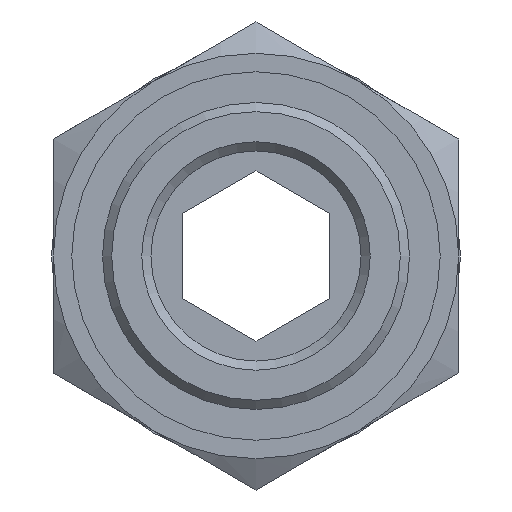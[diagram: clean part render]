
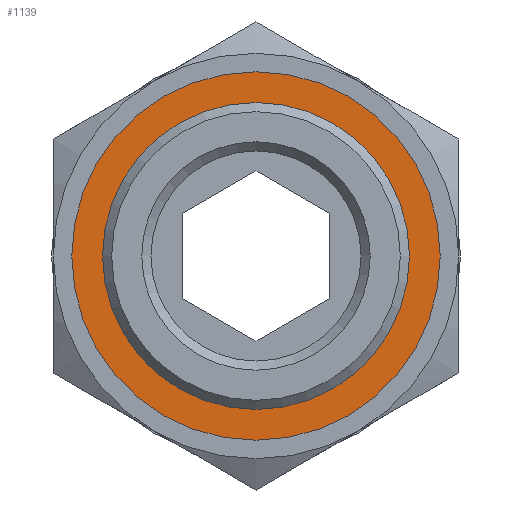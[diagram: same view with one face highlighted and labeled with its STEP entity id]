
A CAD part, front view. The second image highlights one B-rep face of the part: STEP entity #1139.
In plain terms, the highlighted planar face has unit normal (0, -1, 0).
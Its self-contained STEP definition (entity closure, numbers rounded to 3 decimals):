
#409=CARTESIAN_POINT('',(8.331,-25.0,0.0));
#410=VERTEX_POINT('',#409);
#411=CARTESIAN_POINT('',(0.0,-25.0,0.0));
#412=DIRECTION('',(0.0,-1.0,0.0));
#413=DIRECTION('',(1.0,0.0,0.0));
#414=AXIS2_PLACEMENT_3D('',#411,#412,#413);
#415=CIRCLE('',#414,8.331);
#416=EDGE_CURVE('',#410,#410,#415,.T.);
#1113=CARTESIAN_POINT('',(10.0,-25.0,0.0));
#1114=VERTEX_POINT('',#1113);
#1115=CARTESIAN_POINT('',(0.0,-25.0,0.0));
#1116=DIRECTION('',(0.0,-1.0,0.0));
#1117=DIRECTION('',(1.0,0.0,0.0));
#1118=AXIS2_PLACEMENT_3D('',#1115,#1116,#1117);
#1119=CIRCLE('',#1118,10.0);
#1120=EDGE_CURVE('',#1114,#1114,#1119,.T.);
#1128=CARTESIAN_POINT('',(9.166,-25.0,0.0));
#1129=DIRECTION('',(0.0,-1.0,0.0));
#1130=DIRECTION('',(0.0,0.0,-1.0));
#1131=AXIS2_PLACEMENT_3D('',#1128,#1129,#1130);
#1132=PLANE('',#1131);
#1133=ORIENTED_EDGE('',*,*,#1120,.T.);
#1134=EDGE_LOOP('',(#1133));
#1135=FACE_OUTER_BOUND('',#1134,.T.);
#1136=ORIENTED_EDGE('',*,*,#416,.F.);
#1137=EDGE_LOOP('',(#1136));
#1138=FACE_BOUND('',#1137,.T.);
#1139=ADVANCED_FACE('',(#1135,#1138),#1132,.T.);
